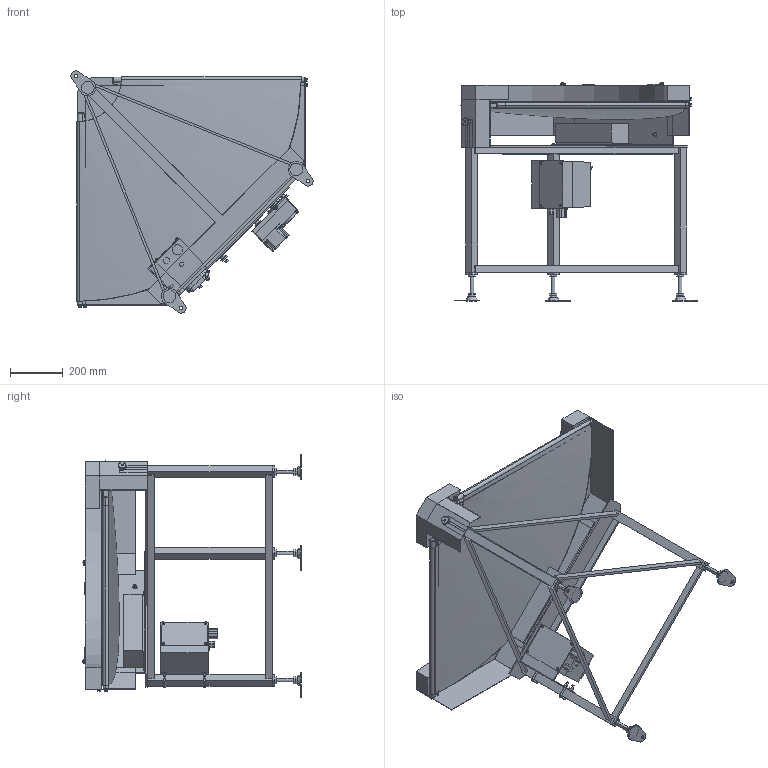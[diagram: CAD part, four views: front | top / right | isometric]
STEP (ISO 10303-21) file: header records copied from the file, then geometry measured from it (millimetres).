
FILE_DESCRIPTION (( 'STEP AP214' ), '1' );
FILE_NAME ('GFBC90-HS600-DC-R.STEP', '2024-01-18T02:50:32', ( '' ), ( '' ), 'SwSTEP 2.0', 'SolidWorks 2017', '' );
FILE_SCHEMA (( 'AUTOMOTIVE_DESIGN' ));
Length unit declared in the file: millimetre
Products named in the file (1): GFBC90-HS600-DC-R
Bounding box: 917.16 x 827.92 x 917.16 mm (x, y, z)
Volume: 23885706.1 mm3; surface area: 5906862.2 mm2
Topology: 64 solids, 65 shells, 1412 faces, 3298 edges, 2108 vertices
Faces by surface type: plane 863, cylinder 408, cone 73, bspline 44, torus 20, sphere 4
Entity records: 47871 total; most frequent: CARTESIAN_POINT 14604, DIRECTION 6777, ORIENTED_EDGE 6548, EDGE_CURVE 3274, AXIS2_PLACEMENT_3D 2343, VERTEX_POINT 2108, LINE 2091, VECTOR 2091
